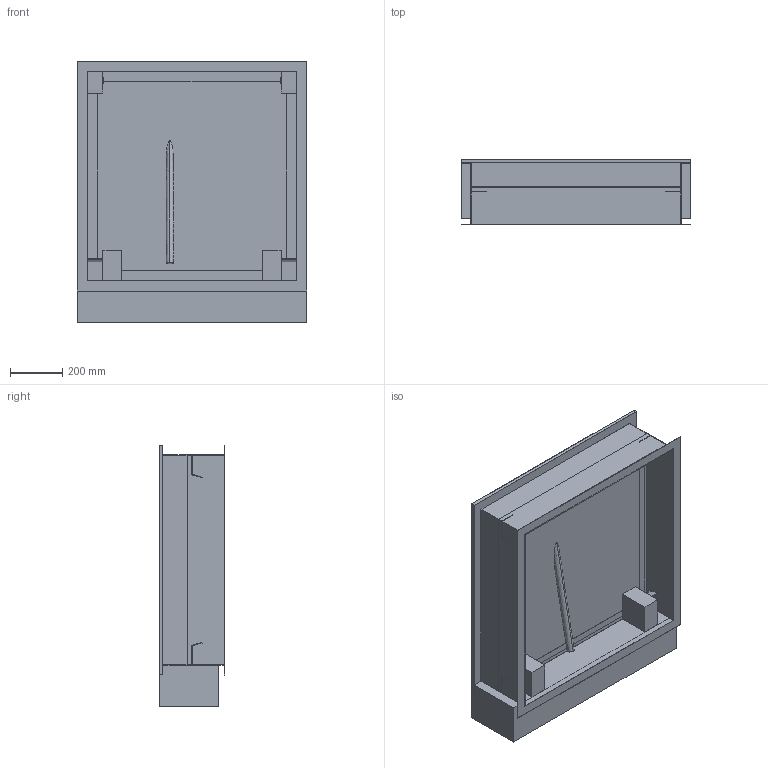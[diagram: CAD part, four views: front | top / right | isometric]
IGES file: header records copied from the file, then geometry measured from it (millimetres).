
Start section:  PTC IGES file: 51591537.igs
Global section: file name: 51591537.igs; native system: Creo Parametric by PTC Inc.; preprocessor: 2019224; author: hrl; organization: Unknown; date: 20210226.113914; units: millimetre
Bounding box: 878 x 250 x 1000 mm (x, y, z)
Surface area: 4470555.5 mm2 (no closed solid volume)
Topology: 0 solids, 0 shells, 142 faces, 784 edges, 784 vertices
Faces by surface type: bspline 110, revolution 32
